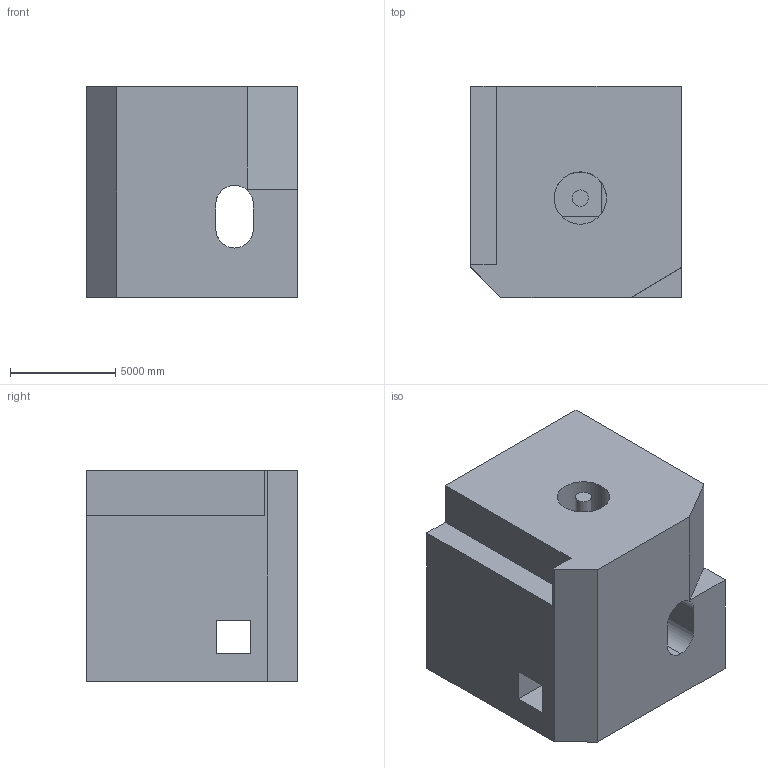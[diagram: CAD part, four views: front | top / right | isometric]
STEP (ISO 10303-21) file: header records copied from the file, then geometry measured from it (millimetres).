
FILE_DESCRIPTION (( 'STEP AP203' ), '1' );
FILE_NAME ('638.STEP', '2022-08-04T14:35:34', ( 'user' ), ( '' ), 'SwSTEP 2.0', 'SolidWorks 2021', '' );
FILE_SCHEMA (( 'CONFIG_CONTROL_DESIGN' ));
Length unit declared in the file: centimetre
Products named in the file (1): 638
Bounding box: 10000 x 10000 x 10000 mm (x, y, z)
Volume: 824583477239.1 mm3; surface area: 794492991.8 mm2
Topology: 1 solids, 1 shells, 34 faces, 108 edges, 72 vertices
Faces by surface type: plane 23, cylinder 11
Entity records: 1593 total; most frequent: CARTESIAN_POINT 526, ORIENTED_EDGE 216, DIRECTION 198, EDGE_CURVE 108, LINE 74, VECTOR 74, VERTEX_POINT 72, AXIS2_PLACEMENT_3D 62
